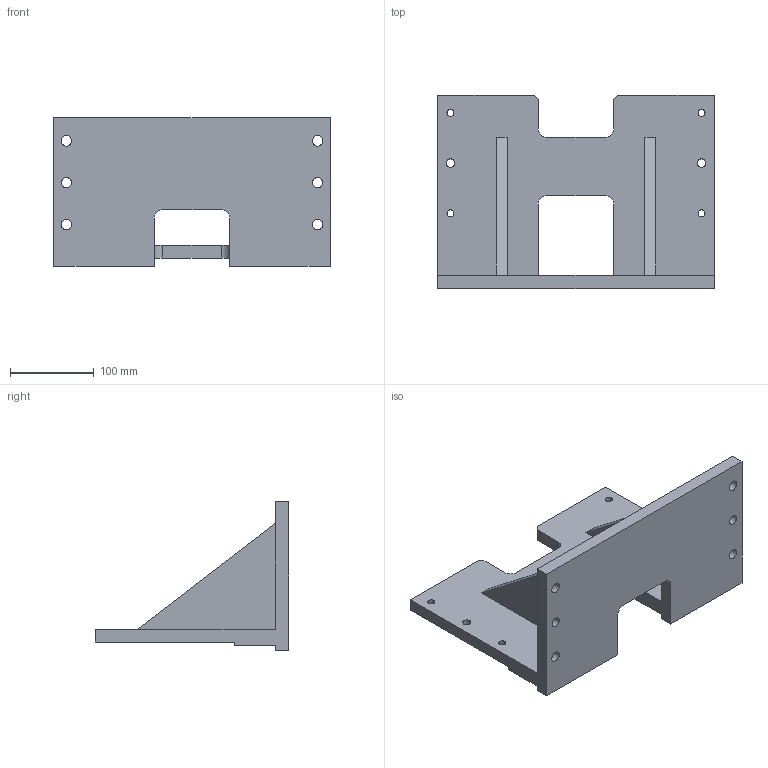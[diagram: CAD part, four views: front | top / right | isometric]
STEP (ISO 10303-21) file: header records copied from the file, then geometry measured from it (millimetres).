
FILE_DESCRIPTION(/* description */ ('DB4-RISER'),/* implementation_level */ '2;1');
FILE_NAME(/* name */ 'C:\Vault Workspace\CAD\Welker\Shot Pin\DBL40\S01896 DB4 Mounting Accessories\S01896E02\S01896E02-150.stp',/* time_stamp */ '2016-05-04T13:48:40-04:00',/* author */ ('klabrecque'),/* organization */ (''),/* preprocessor_version */ 'ST-DEVELOPER v15.2',/* originating_system */ 'Autodesk Inventor 2014',/* authorisation */ '');
FILE_SCHEMA (('AUTOMOTIVE_DESIGN { 1 0 10303 214 3 1 1 }'));
Length unit declared in the file: millimetre
Products named in the file (1): S01896E02-150
Bounding box: 330 x 231 x 177.8 mm (x, y, z)
Volume: 2010163.6 mm3; surface area: 297258 mm2
Topology: 1 solids, 1 shells, 50 faces, 162 edges, 112 vertices
Faces by surface type: plane 32, cylinder 18
Full cylindrical faces by diameter (mm): 8.376 x4, 10 x2, 12 x2, 12.5 x4
Entity records: 1753 total; most frequent: CARTESIAN_POINT 289, ORIENTED_EDGE 276, DIRECTION 276, EDGE_CURVE 138, LINE 102, VECTOR 102, VERTEX_POINT 100, AXIS2_PLACEMENT_3D 87
